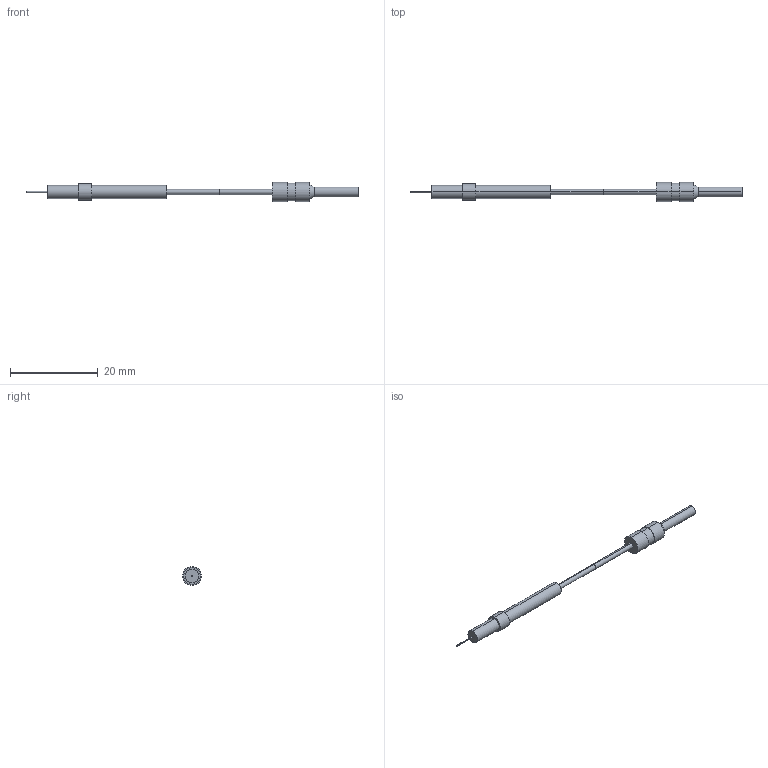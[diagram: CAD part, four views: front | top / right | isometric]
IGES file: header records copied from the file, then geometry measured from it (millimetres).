
Start section: SolidWorks IGES FILE using analytic representation for surfaces
Global section: file name: C:\Documents and Settings\yk0651\デスクトップ\3D_catalog_050929\0_IGES\FT-E12.IGS; native system: SolidWorks 2004 by SolidWorks Corporation; preprocessor: Version 5.3; author: yk0651; date: 051002.165356; units: millimetre
Bounding box: 75.5 x 4.33 x 4.33 mm (x, y, z)
Volume: 396.4 mm3; surface area: 600.4 mm2
Topology: 2 solids, 2 shells, 37 faces, 70 edges, 46 vertices
Faces by surface type: revolution 24, plane 13
